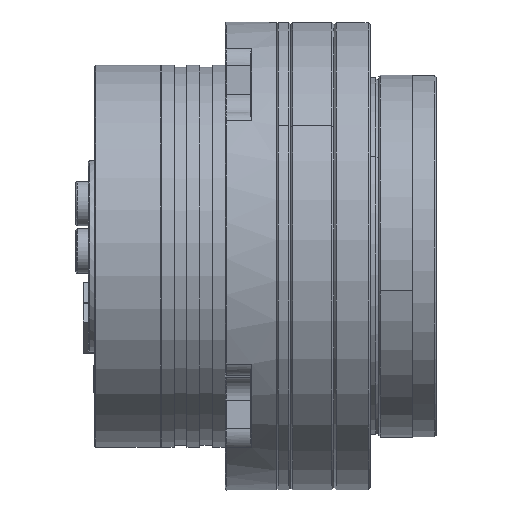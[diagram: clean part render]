
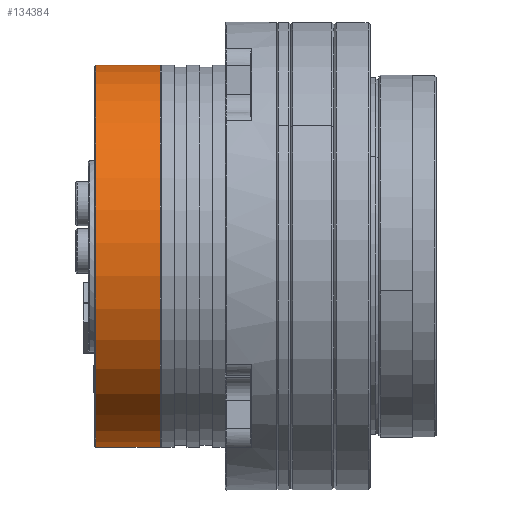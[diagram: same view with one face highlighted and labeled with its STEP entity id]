
A CAD part, top view. The second image highlights one B-rep face of the part: STEP entity #134384.
In plain terms, the highlighted cylindrical face has radius 45 mm (diameter 90 mm), a full revolution.
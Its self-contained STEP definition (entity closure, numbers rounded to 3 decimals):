
#134352=CARTESIAN_POINT('',(-63.4,0.,0.));
#134353=DIRECTION('',(0.,-0.067,-0.998));
#134354=DIRECTION('',(1.,0.,0.));
#134355=AXIS2_PLACEMENT_3D('',#134352,#134354,#134353);
#134356=CYLINDRICAL_SURFACE('',#134355,45.);
#134357=CARTESIAN_POINT('',(-48.3,-3.021,-44.899));
#134358=VERTEX_POINT('',#134357);
#134359=CARTESIAN_POINT('',(-63.4,-3.021,-44.899));
#134360=VERTEX_POINT('',#134359);
#134361=CARTESIAN_POINT('',(-48.3,-3.021,-44.899));
#134362=DIRECTION('',(-1.,0.,0.));
#134363=VECTOR('',#134362,15.1);
#134364=LINE('',#134361,#134363);
#134365=EDGE_CURVE('',#134358,#134360,#134364,.T.);
#134366=ORIENTED_EDGE('',*,*,#134365,.T.);
#134367=CARTESIAN_POINT('',(-63.4,0.,0.));
#134368=DIRECTION('',(0.,-0.067,-0.998));
#134369=DIRECTION('',(1.,0.,0.));
#134370=AXIS2_PLACEMENT_3D('',#134367,#134369,#134368);
#134371=CIRCLE('',#134370,45.);
#134372=EDGE_CURVE('',#134360,#134360,#134371,.T.);
#134373=ORIENTED_EDGE('',*,*,#134372,.T.);
#134374=ORIENTED_EDGE('',*,*,#134365,.F.);
#134375=CARTESIAN_POINT('',(-48.3,0.,0.));
#134376=DIRECTION('',(0.,-0.067,-0.998));
#134377=DIRECTION('',(-1.,0.,0.));
#134378=AXIS2_PLACEMENT_3D('',#134375,#134377,#134376);
#134379=CIRCLE('',#134378,45.);
#134380=EDGE_CURVE('',#134358,#134358,#134379,.T.);
#134381=ORIENTED_EDGE('',*,*,#134380,.T.);
#134382=EDGE_LOOP('',(#134366,#134373,#134374,#134381));
#134383=FACE_OUTER_BOUND('',#134382,.T.);
#134384=ADVANCED_FACE('',(#134383),#134356,.T.);
